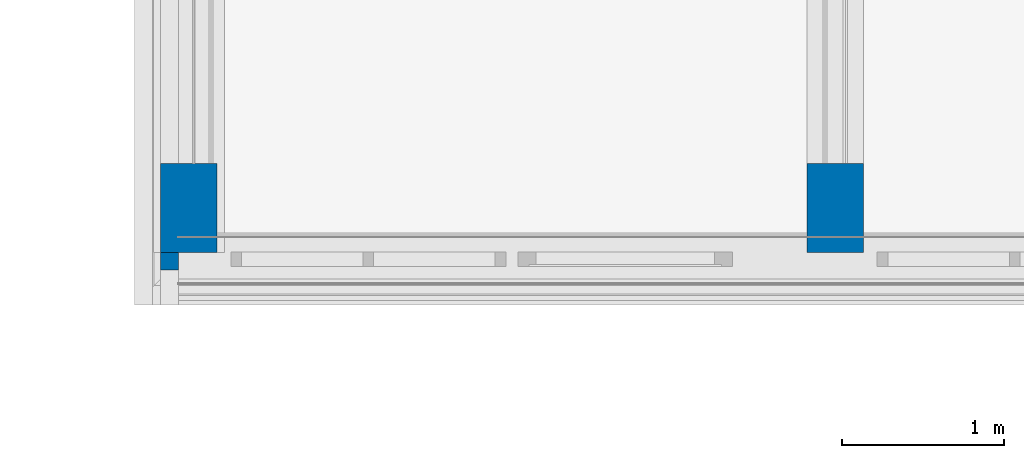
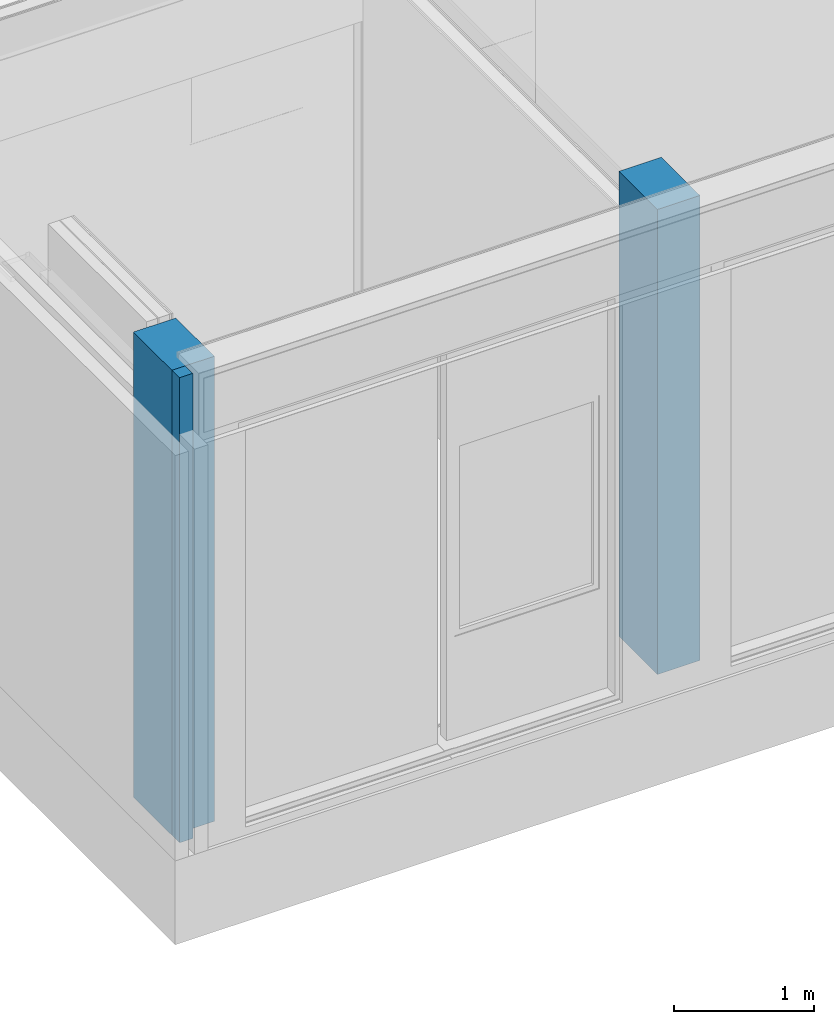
# One storey, part 6 of 94: 3 columns.
"""IFC2X3 building model written with IfcOpenShell, lengths in millimetres."""

import ifcopenshell
import ifcopenshell.guid

model = None  # the IFC model being written
_history = None  # IfcOwnerHistory: only IFC2X3 demands one
_inside = {}  # id of a spatial element -> (the spatial element, [elements in it])
_under = {}  # id of a project, library or spatial element -> (it, [spatial elements below it])
_declared = {}  # id of a project -> (the project, [libraries it declares])
_typed = {}  # id of a type object -> (the type object, [elements of that type])
_made_of = {}  # id of a material, layer set ... -> (it, [elements and type objects made of it])


def new_model(schema):
    """Start an empty IFC model of exactly this schema.

    Asked for "IFC4X3", IfcOpenShell would pick the latest addendum, in which some entities
    have other attributes; the version numbers below select the first issue.
    IFC2X3 requires an IfcOwnerHistory on every rooted entity: one is made here for all.
    """
    global model, _history
    if schema == "IFC4X3":
        model = ifcopenshell.file(schema_version=(4, 3, 0, 0))
    else:
        model = ifcopenshell.file(schema=schema)
    _inside.clear()
    _under.clear()
    _declared.clear()
    _typed.clear()
    _made_of.clear()
    _history = None
    if model.schema == "IFC2X3":
        org = make("IfcOrganization", Name="unknown")
        user = make(
            "IfcPersonAndOrganization",
            ThePerson=make("IfcPerson", FamilyName="unknown"),
            TheOrganization=org,
        )
        app = make(
            "IfcApplication",
            ApplicationDeveloper=org,
            Version="unknown",
            ApplicationFullName="unknown",
            ApplicationIdentifier="unknown",
        )
        _history = make(
            "IfcOwnerHistory",
            OwningUser=user,
            OwningApplication=app,
            ChangeAction="ADDED",
            CreationDate=0,
        )
    return model


def make(cls, **values):
    """One entity of the class cls with the attributes given. An attribute that is None is left unset."""
    return model.create_entity(
        cls, **{name: value for name, value in values.items() if value is not None}
    )


def entity(cls, *values):
    """Any entity or typed value of the class cls, its attributes in the order of the schema. None: left unset."""
    e = model.create_entity(cls)
    for i, value in enumerate(values):
        if value is not None:
            e[i] = value
    return e


def rooted(cls, **values):
    """An entity with a GlobalId (a new one), such as an element, a storey or a relation."""
    return make(cls, GlobalId=ifcopenshell.guid.new(), OwnerHistory=_history, **values)


def si_unit(unit_type, name, prefix=None):
    """IfcSIUnit, for example si_unit("LENGTHUNIT", "METRE", prefix="MILLI")."""
    return make("IfcSIUnit", UnitType=unit_type, Prefix=prefix, Name=name)


def converted_unit(unit_type, name, factor, base, dimensions=None, offset=None):
    """IfcConversionBasedUnit, such as the inch: factor (a typed value) times the base unit."""
    return make(
        "IfcConversionBasedUnit"
        if offset is None
        else "IfcConversionBasedUnitWithOffset",
        ConversionOffset=offset,
        Dimensions=None
        if dimensions is None
        else entity("IfcDimensionalExponents", *dimensions),
        UnitType=unit_type,
        Name=name,
        ConversionFactor=make(
            "IfcMeasureWithUnit", ValueComponent=factor, UnitComponent=base
        ),
    )


def derived_unit(unit_type, elements):
    """IfcDerivedUnit: a product of units, each with its exponent."""
    return make(
        "IfcDerivedUnit",
        Elements=[
            make("IfcDerivedUnitElement", Unit=unit, Exponent=power)
            for unit, power in elements
        ],
        UnitType=unit_type,
    )


def money_unit(currency):
    """IfcMonetaryUnit."""
    return make("IfcMonetaryUnit", Currency=currency)


def assignment(units):
    """IfcUnitAssignment: the units of a project."""
    return None if units is None else make("IfcUnitAssignment", Units=units)


def point(xyz):
    """IfcCartesianPoint."""
    return None if xyz is None else make("IfcCartesianPoint", Coordinates=xyz)


def direction(xyz):
    """IfcDirection."""
    return None if xyz is None else make("IfcDirection", DirectionRatios=xyz)


def frame(location, z_axis=None, x_axis=None):
    """IfcAxis2Placement3D, a coordinate frame: its origin and axes. An axis left out is left unset."""
    return make(
        "IfcAxis2Placement3D",
        Location=point(location),
        Axis=direction(z_axis),
        RefDirection=direction(x_axis),
    )


def origin_with_axes():
    """The frame at (0, 0, 0) with the z axis (0, 0, 1) and the x axis (1, 0, 0) written out."""
    return frame((0.0, 0.0, 0.0), z_axis=(0.0, 0.0, 1.0), x_axis=(1.0, 0.0, 0.0))


def place(relative_to, where):
    """IfcLocalPlacement: puts the frame where relative to a parent placement (None: the world)."""
    return make(
        "IfcLocalPlacement", PlacementRelTo=relative_to, RelativePlacement=where
    )


def context(
    kind, dimensions, precision=None, world=None, true_north=None, identifier=None
):
    """IfcGeometricRepresentationContext, for example the 3D "Model" context."""
    return make(
        "IfcGeometricRepresentationContext",
        ContextIdentifier=identifier,
        ContextType=kind,
        CoordinateSpaceDimension=dimensions,
        Precision=precision,
        WorldCoordinateSystem=world,
        TrueNorth=true_north,
    )


def subcontext(parent, identifier, kind, view, scale=None):
    """IfcGeometricRepresentationSubContext, for example "Body" below "Model"."""
    return make(
        "IfcGeometricRepresentationSubContext",
        ContextIdentifier=identifier,
        ContextType=kind,
        ParentContext=parent,
        TargetScale=scale,
        TargetView=view,
    )


def project(units=None, contexts=None):
    """IfcProject with its units and contexts."""
    return rooted(
        "IfcProject",
        Name="project",
        RepresentationContexts=contexts,
        UnitsInContext=assignment(units),
    )


def spatial(cls, under=None, at=None, **own):
    """A site, building, storey or space (cls), placed at a placement, below another one or the project."""
    s = rooted(cls, ObjectPlacement=at, **own)
    if under is not None:
        _under.setdefault(under.id(), (under, []))[1].append(s)
    return s


def faces_of(points, faces, orient=None, outer=None):
    """IfcFace entities. A face is a list of loops; a loop is a list of indices into points, from 0.

    orient and outer hold one flag for each loop. By default every Orientation is true, the
    first loop of a face is its IfcFaceOuterBound and the others are IfcFaceBound.
    """
    made = []
    for i, loops in enumerate(faces):
        bounds = []
        for j, loop in enumerate(loops):
            is_outer = j == 0 if outer is None else outer[i][j]
            bounds.append(
                make(
                    "IfcFaceOuterBound" if is_outer else "IfcFaceBound",
                    Bound=make("IfcPolyLoop", Polygon=[points[k] for k in loop]),
                    Orientation=True if orient is None else orient[i][j],
                )
            )
        made.append(make("IfcFace", Bounds=bounds))
    return made


def faceted_brep(points, faces, orient=None, outer=None, voids=None):
    """IfcFacetedBrep: a solid bounded by flat faces; with voids (closed shells), ...WithVoids."""
    shared = [point(p) for p in points]
    hull = make("IfcClosedShell", CfsFaces=faces_of(shared, faces, orient, outer))
    if voids is None:
        return make("IfcFacetedBrep", Outer=hull)
    return make(
        "IfcFacetedBrepWithVoids",
        Outer=hull,
        Voids=[
            make(cls, CfsFaces=faces_of(shared, fs, o, b)) for cls, fs, o, b in voids
        ],
    )


def shape(context_of_items, identifier, shape_type, items):
    """IfcShapeRepresentation: the items that make up one representation, for example the "Body"."""
    return make(
        "IfcShapeRepresentation",
        ContextOfItems=context_of_items,
        RepresentationIdentifier=identifier,
        RepresentationType=shape_type,
        Items=items,
    )


def material(Name=None, Category=None):
    """IfcMaterial."""
    return make("IfcMaterial", Name=Name, Category=Category)


def made_of(thing, what):
    """Note that an element or type object is made of a material, layer set ...; save() writes the relation."""
    if what is not None:
        _made_of.setdefault(what.id(), (what, []))[1].append(thing)
    return thing


def type_object(cls, material=None, **own):
    """A type object (cls), such as IfcWallType, which elements share."""
    return made_of(rooted(cls, **own), material)


def element(
    cls,
    number,
    at=None,
    inside=None,
    cuts=None,
    type_object=None,
    material=None,
    context=None,
    identifier="Body",
    shape_type=None,
    held_by="IfcProductDefinitionShape",
    body=None,
    shapes=None,
    **own,
):
    """One element of the class cls, such as IfcWall. Its Tag is "e" and its number.

    at: its placement. inside: the storey or other place that contains it. cuts: it is an
    opening in that element (IfcRelVoidsElement). A single representation is given by context,
    identifier, shape_type and body (its items); several are given by shapes. held_by: the class
    of the entity that holds the representations. save() writes the other relations.
    """
    e = rooted(cls, Tag="e%d" % number, ObjectPlacement=at, **own)
    if body is not None:
        shapes = [shape(context, identifier, shape_type, body)]
    if shapes is not None:
        e.Representation = make(held_by, Representations=shapes)
    if inside is not None:
        _inside.setdefault(inside.id(), (inside, []))[1].append(e)
    if cuts is not None:
        rooted(
            "IfcRelVoidsElement", RelatingBuildingElement=cuts, RelatedOpeningElement=e
        )
    if type_object is not None:
        _typed.setdefault(type_object.id(), (type_object, []))[1].append(e)
    return made_of(e, material)


def aggregate(whole, parts):
    """IfcRelAggregates: a whole, such as a stair, and the parts it consists of."""
    return rooted("IfcRelAggregates", RelatingObject=whole, RelatedObjects=parts)


def save(model, path):
    """Write the relations noted so far, then the file.

    IfcRelAggregates (storeys below a building ...), IfcRelContainedInSpatialStructure (elements
    in a storey), IfcRelDefinesByType, IfcRelAssociatesMaterial and IfcRelDeclares: one each for
    every whole, place, type object, material and project.
    """
    for whole, parts in _under.values():
        aggregate(whole, parts)
    for where, things in _inside.values():
        rooted(
            "IfcRelContainedInSpatialStructure",
            RelatedElements=things,
            RelatingStructure=where,
        )
    for kind, things in _typed.values():
        rooted("IfcRelDefinesByType", RelatedObjects=things, RelatingType=kind)
    for what, things in _made_of.values():
        rooted("IfcRelAssociatesMaterial", RelatedObjects=things, RelatingMaterial=what)
    for by, libraries in _declared.values():
        rooted("IfcRelDeclares", RelatingContext=by, RelatedDefinitions=libraries)
    model.write(path)


model = new_model("IFC2X3")

# Units and contexts
model_context = context("Model", 3, precision=0.01, world=origin_with_axes(), true_north=direction((0.0, 1.0)))
body_context = subcontext(model_context, "Body", "Model", "MODEL_VIEW")
ifc_project = project(units=[si_unit("LENGTHUNIT", "METRE", prefix="MILLI"), si_unit("AREAUNIT", "SQUARE_METRE"), si_unit("VOLUMEUNIT", "CUBIC_METRE"), converted_unit("PLANEANGLEUNIT", "DEGREE", entity("IfcPlaneAngleMeasure", 0.0174532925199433), si_unit("PLANEANGLEUNIT", "RADIAN"), dimensions=[0, 0, 0, 0, 0, 0, 0]), money_unit("EUR"), converted_unit("TIMEUNIT", "Year", entity("IfcTimeMeasure", 31557600.0), si_unit("TIMEUNIT", "SECOND"), dimensions=[0, 0, 1, 0, 0, 0, 0]), si_unit("MASSUNIT", "GRAM", prefix="KILO"), si_unit("THERMODYNAMICTEMPERATUREUNIT", "DEGREE_CELSIUS"), si_unit("LUMINOUSINTENSITYUNIT", "LUMEN"), si_unit("ENERGYUNIT", "JOULE", prefix="MEGA"), derived_unit("THERMALCONDUCTANCEUNIT", [(si_unit("POWERUNIT", "WATT"), 1), (si_unit("LENGTHUNIT", "METRE"), -1), (si_unit("THERMODYNAMICTEMPERATUREUNIT", "KELVIN"), -1)]), derived_unit("SPECIFICHEATCAPACITYUNIT", [(si_unit("ENERGYUNIT", "JOULE"), 1), (si_unit("MASSUNIT", "GRAM", prefix="KILO"), -1), (si_unit("THERMODYNAMICTEMPERATUREUNIT", "KELVIN"), -1)]), derived_unit("MASSDENSITYUNIT", [(si_unit("MASSUNIT", "GRAM", prefix="KILO"), 1), (si_unit("VOLUMEUNIT", "CUBIC_METRE"), -1)])], contexts=[model_context])

# Site, building, storey
site_placement = place(None, origin_with_axes())
site = spatial("IfcSite", under=ifc_project, at=site_placement, Name="<site naam>", CompositionType="ELEMENT")
building_placement = place(site_placement, origin_with_axes())
building = spatial("IfcBuilding", under=site, at=building_placement, Name="<Naam gebouw>", CompositionType="ELEMENT")
storey_placement = place(building_placement, frame((0.0, 0.0, 4250.0), z_axis=(0.0, 0.0, 1.0), x_axis=(1.0, 0.0, 0.0)))
storey = spatial("IfcBuildingStorey", under=building, at=storey_placement, Name="01 1e verdieping", CompositionType="ELEMENT", Elevation=4250.0)

# Columns
ifc_material = material(Name="beton_gewapend C")
column_type_1 = type_object("IfcColumnType", Name="beton_gewapend C 350 x 550", PredefinedType="COLUMN")
column_1_placement = place(storey_placement, frame((11999.99995202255, 274.9999539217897, 0.0), z_axis=(0.0, 0.0, 1.0), x_axis=(1.0, 0.0, 0.0)))
element("IfcColumn", 1, at=column_1_placement, inside=storey, type_object=column_type_1, material=ifc_material, Name="28_Kolom_beton_gewapend", ObjectType="COLUMN", context=body_context, shape_type="Brep", body=[
    faceted_brep([(175.0000000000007, -274.9999999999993, 0.0), (175.0000000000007, -274.9999999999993, 4050.000000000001), (-175.0000000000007, -274.9999999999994, 4050.000000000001), (-175.0000000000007, -274.9999999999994, 0.0), (175.0000000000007, 274.9999999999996, 0.0), (175.0000000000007, 274.9999999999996, 4050.000000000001), (-175.0000000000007, 274.9999999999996, 4050.000000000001), (-175.0000000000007, 274.9999999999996, 0.0)], [[[0, 1, 2, 3]], [[4, 5, 1, 0]], [[1, 5, 6, 2]], [[3, 2, 6, 7]], [[7, 4, 0, 3]], [[7, 6, 5, 4]]]),
])
column_2_placement = place(storey_placement, frame((16000.00000000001, 275.0000000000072, 0.0), z_axis=(0.0, 0.0, 1.0), x_axis=(1.0, 0.0, 0.0)))
element("IfcColumn", 2, at=column_2_placement, inside=storey, type_object=column_type_1, material=ifc_material, Name="28_Kolom_beton_gewapend", ObjectType="COLUMN", context=body_context, shape_type="Brep", body=[
    faceted_brep([(-175.0000000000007, -275.0, 4050.000000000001), (-175.0000000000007, -275.0, 0.0), (175.0000000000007, -275.0, 0.0), (175.0000000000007, -275.0, 4050.000000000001), (-175.0000000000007, 275.0000000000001, 4050.000000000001), (-175.0000000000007, 275.0000000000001, 0.0), (175.0000000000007, 274.9999999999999, 0.0), (175.0000000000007, 274.9999999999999, 4050.000000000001)], [[[0, 1, 2, 3]], [[4, 5, 1, 0]], [[2, 1, 5, 6]], [[3, 2, 6, 7]], [[4, 0, 3, 7]], [[7, 6, 5, 4]]]),
])
column_type_2 = type_object("IfcColumnType", Name="beton_gewapend C 110 x 108", PredefinedType="COLUMN")
column_3_placement = place(storey_placement, frame((11879.99995236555, -53.83728297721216, 0.0), z_axis=(0.0, 0.0, 1.0), x_axis=(1.0, 0.0, 0.0)))
element("IfcColumn", 3, at=column_3_placement, inside=storey, type_object=column_type_2, material=ifc_material, Name="28_Kolom_beton_gewapend", ObjectType="COLUMN", context=body_context, shape_type="Brep", body=[
    faceted_brep([(55.00000034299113, -53.83723689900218, 0.0), (55.00000034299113, -53.83723689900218, 4050.000000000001), (-55.00000034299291, -53.8372368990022, 4050.000000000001), (-55.00000034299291, -53.8372368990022, 0.0), (55.00000034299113, 53.83723689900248, 0.0), (55.00000034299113, 53.83723689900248, 4050.000000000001), (-55.00000034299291, 53.83723689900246, 4050.000000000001), (-55.00000034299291, 53.83723689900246, 0.0)], [[[0, 1, 2, 3]], [[4, 5, 1, 0]], [[1, 5, 6, 2]], [[3, 2, 6, 7]], [[7, 4, 0, 3]], [[7, 6, 5, 4]]]),
])

save(model, "model.ifc")
